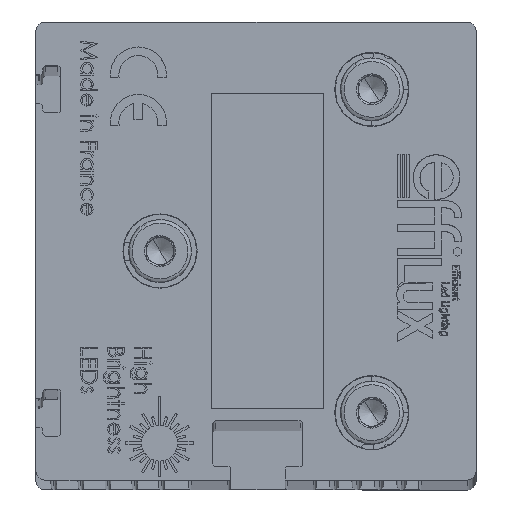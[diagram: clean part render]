
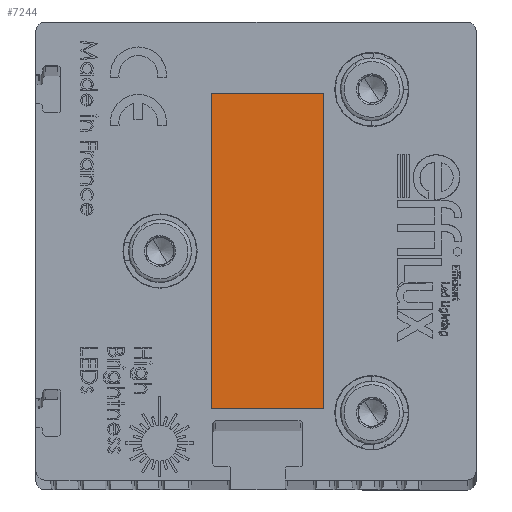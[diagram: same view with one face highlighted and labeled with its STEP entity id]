
A CAD part, top view. The second image highlights one B-rep face of the part: STEP entity #7244.
In plain terms, the highlighted planar face has unit normal (0, 0, 1) as drawn and (0, -1, 0) by its records, which use the part's own axes.
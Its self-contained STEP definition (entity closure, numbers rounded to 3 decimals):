
#3085 = CARTESIAN_POINT ( 'NONE',  ( 43., 0.1, -19.5 ) ) ;
#3395 = CARTESIAN_POINT ( 'NONE',  ( 8., 0.1, -19.5 ) ) ;
#6458 = CARTESIAN_POINT ( 'NONE',  ( 43., 0.1, -32. ) ) ;
#7244 = ADVANCED_FACE ( 'NONE', ( #117563 ), #37920, .T. ) ;
#9277 = DIRECTION ( 'NONE',  ( 1., 0., 0. ) ) ;
#11098 = EDGE_LOOP ( 'NONE', ( #76194, #77341, #55953, #57429 ) ) ;
#17742 = DIRECTION ( 'NONE',  ( 0., 0., -1. ) ) ;
#18544 = DIRECTION ( 'NONE',  ( 0., 0., 1. ) ) ;
#29924 = CARTESIAN_POINT ( 'NONE',  ( 43., 0.1, -32. ) ) ;
#37920 = PLANE ( 'NONE',  #98749 ) ;
#48495 = CARTESIAN_POINT ( 'NONE',  ( 8., 0.1, -32. ) ) ;
#55953 = ORIENTED_EDGE ( 'NONE', *, *, #66486, .T. ) ;
#57429 = ORIENTED_EDGE ( 'NONE', *, *, #94339, .T. ) ;
#60442 = CARTESIAN_POINT ( 'NONE',  ( 8., 0.1, -32. ) ) ;
#61765 = LINE ( 'NONE', #29924, #77878 ) ;
#64101 = EDGE_CURVE ( 'NONE', #114024, #105916, #78760, .T. ) ;
#66486 = EDGE_CURVE ( 'NONE', #77453, #75134, #129924, .T. ) ;
#69968 = VECTOR ( 'NONE', #95452, 1000. ) ;
#73947 = CARTESIAN_POINT ( 'NONE',  ( 43., 0.1, -19.5 ) ) ;
#75134 = VERTEX_POINT ( 'NONE', #48495 ) ;
#76194 = ORIENTED_EDGE ( 'NONE', *, *, #64101, .T. ) ;
#77341 = ORIENTED_EDGE ( 'NONE', *, *, #117779, .T. ) ;
#77453 = VERTEX_POINT ( 'NONE', #3395 ) ;
#77878 = VECTOR ( 'NONE', #9277, 1000. ) ;
#78760 = LINE ( 'NONE', #6458, #117324 ) ;
#83264 = VECTOR ( 'NONE', #99473, 1000. ) ;
#94339 = EDGE_CURVE ( 'NONE', #75134, #114024, #61765, .T. ) ;
#95452 = DIRECTION ( 'NONE',  ( -1., 0., 0. ) ) ;
#98749 = AXIS2_PLACEMENT_3D ( 'NONE', #111029, #109704, #17742 ) ;
#99473 = DIRECTION ( 'NONE',  ( 0., 0., -1. ) ) ;
#105916 = VERTEX_POINT ( 'NONE', #73947 ) ;
#108480 = LINE ( 'NONE', #3085, #69968 ) ;
#109704 = DIRECTION ( 'NONE',  ( 0., -1., 0. ) ) ;
#111029 = CARTESIAN_POINT ( 'NONE',  ( 43., 0.1, -19.5 ) ) ;
#114024 = VERTEX_POINT ( 'NONE', #121528 ) ;
#117324 = VECTOR ( 'NONE', #18544, 1000. ) ;
#117563 = FACE_OUTER_BOUND ( 'NONE', #11098, .T. ) ;
#117779 = EDGE_CURVE ( 'NONE', #105916, #77453, #108480, .T. ) ;
#121528 = CARTESIAN_POINT ( 'NONE',  ( 43., 0.1, -32. ) ) ;
#129924 = LINE ( 'NONE', #60442, #83264 ) ;
